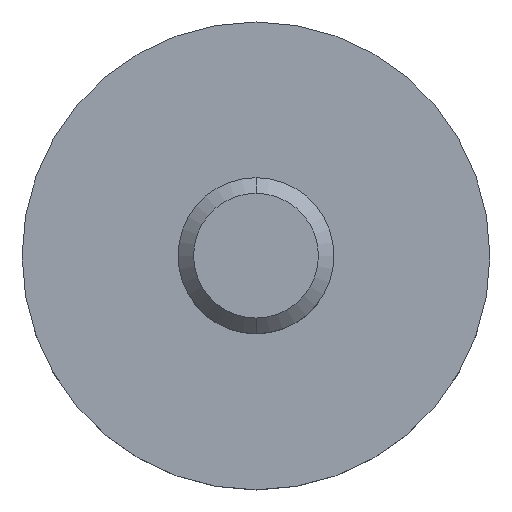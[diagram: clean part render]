
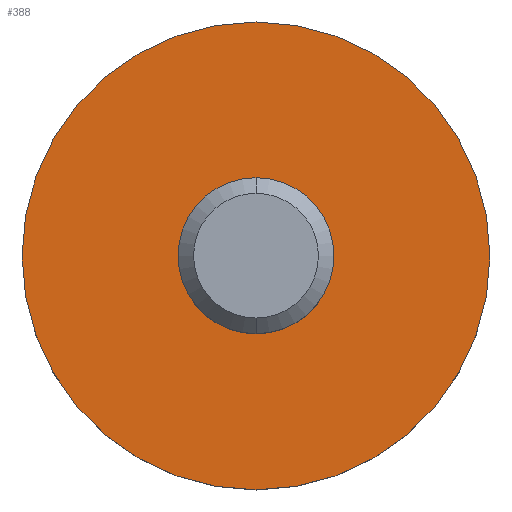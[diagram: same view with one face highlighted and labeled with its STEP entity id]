
A CAD part, top view. The second image highlights one B-rep face of the part: STEP entity #388.
In plain terms, the highlighted planar face has unit normal (0, 0, 1).
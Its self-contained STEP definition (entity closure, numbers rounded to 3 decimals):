
#105=CARTESIAN_POINT('',(0.,0.,-1.));
#106=DIRECTION('',(0.,0.,-1.));
#107=DIRECTION('',(0.,1.,0.));
#108=AXIS2_PLACEMENT_3D('',#105,#106,#107);
#110=CARTESIAN_POINT('',(0.,0.,-1.));
#111=DIRECTION('',(0.,0.,1.));
#112=DIRECTION('',(0.,1.,0.));
#113=AXIS2_PLACEMENT_3D('',#110,#111,#112);
#115=CARTESIAN_POINT('',(0.,0.,-1.));
#116=DIRECTION('',(0.,0.,1.));
#117=DIRECTION('',(0.,1.,0.));
#118=AXIS2_PLACEMENT_3D('',#115,#116,#117);
#124=CARTESIAN_POINT('',(0.,0.,-1.));
#125=DIRECTION('',(0.,0.,-1.));
#126=DIRECTION('',(0.,1.,0.));
#127=AXIS2_PLACEMENT_3D('',#124,#125,#126);
#174=CARTESIAN_POINT('',(0.,1.5,-1.));
#176=VERTEX_POINT('',#174);
#177=CARTESIAN_POINT('',(0.,0.5,-1.));
#179=VERTEX_POINT('',#177);
#194=CARTESIAN_POINT('',(0.,-1.5,-1.));
#196=VERTEX_POINT('',#194);
#197=CARTESIAN_POINT('',(0.,-0.5,-1.));
#199=VERTEX_POINT('',#197);
#373=CARTESIAN_POINT('',(0.,0.,-1.));
#374=DIRECTION('',(0.,0.,1.));
#375=DIRECTION('',(0.,1.,0.));
#376=AXIS2_PLACEMENT_3D('',#373,#374,#375);
#377=PLANE('',#376);
#378=ORIENTED_EDGE('',*,*,#368,.T.);
#379=ORIENTED_EDGE('',*,*,#352,.F.);
#380=EDGE_LOOP('',(#378,#379));
#381=FACE_OUTER_BOUND('',#380,.F.);
#383=ORIENTED_EDGE('',*,*,#382,.T.);
#385=ORIENTED_EDGE('',*,*,#384,.F.);
#386=EDGE_LOOP('',(#383,#385));
#387=FACE_BOUND('',#386,.F.);
#388=ADVANCED_FACE('',(#381,#387),#377,.T.);
#109=CIRCLE('',#108,1.5);
#114=CIRCLE('',#113,1.5);
#119=CIRCLE('',#118,0.5);
#128=CIRCLE('',#127,0.5);
#352=EDGE_CURVE('',#176,#196,#114,.T.);
#368=EDGE_CURVE('',#176,#196,#109,.T.);
#382=EDGE_CURVE('',#179,#199,#119,.T.);
#384=EDGE_CURVE('',#179,#199,#128,.T.);
